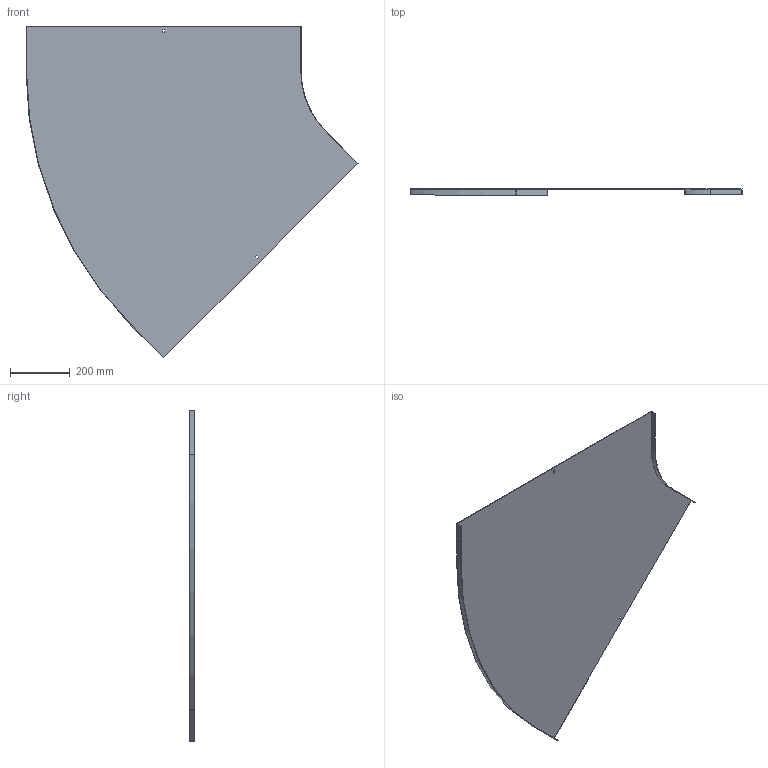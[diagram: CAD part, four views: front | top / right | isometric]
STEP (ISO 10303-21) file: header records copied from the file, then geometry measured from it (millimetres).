
FILE_DESCRIPTION (( 'STEP AP214' ), '1' );
FILE_NAME ('11N3P900.step', '2025-02-21T13:35:18', ( '' ), ( '' ), 'SwSTEP 2.0', 'SolidWorks 2023', '' );
FILE_SCHEMA (( 'AUTOMOTIVE_DESIGN' ));
Length unit declared in the file: millimetre
Products named in the file (1): 11N3P900
Bounding box: 1113.57 x 20 x 1112.73 mm (x, y, z)
Volume: 1280054.5 mm3; surface area: 1712379.5 mm2
Topology: 1 solids, 1 shells, 26 faces, 72 edges, 48 vertices
Faces by surface type: plane 22, cylinder 4
Entity records: 855 total; most frequent: CARTESIAN_POINT 147, ORIENTED_EDGE 144, DIRECTION 134, EDGE_CURVE 72, LINE 64, VECTOR 64, VERTEX_POINT 48, AXIS2_PLACEMENT_3D 35
